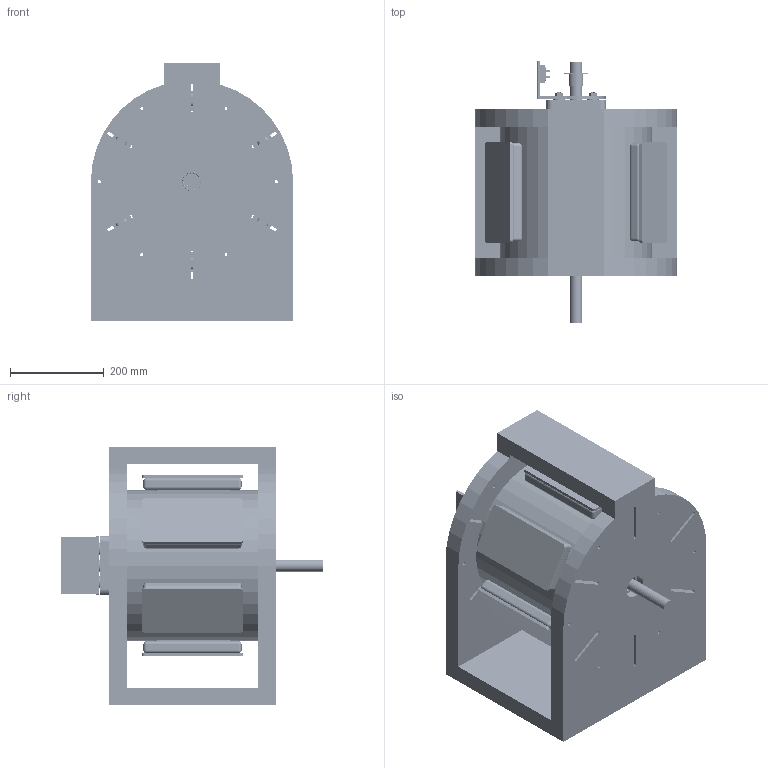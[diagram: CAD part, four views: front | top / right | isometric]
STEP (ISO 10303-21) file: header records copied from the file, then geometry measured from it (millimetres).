
FILE_DESCRIPTION(('HOOPS Exchange Step'),'2;1');
FILE_NAME('C:\Users\edbec\AppData\Local\Packages\Shapr3D.Shapr3D_dvv5p1vgwv6mp\TempState\export\temp_export','2024-05-31T18:08:55+08:00',('edbec'),('Shapr3D Limited'),'HOOPS Exchange 2024.2','Shapr3D','Authorized');
FILE_SCHEMA( ('AUTOMOTIVE_DESIGN { 1 0 10303 214 1 1 1 1 }') );
Length unit declared in the file: millimetre
Products named in the file (25): Bolts Nuts and Washers; Timing Wheel Bracket; Timing Wheel Base Plate; Timing Wheel; Folder 25; Axle; Boca_R16_ZRO2-W_500_FC 01; Boca_R16_ZRO2-W_500_FC 02; Bearings; Clamping Shaft Collar (1); Clamping Shaft Collar (2); Clamping Shaft Collars; Coils; Coil Spools; Flange Mount 01; Flange Mount 02; Flange Mounts; Magnets; Rotors; Spacers; Stator Base; Stator Housing; Stator Top Horizontal; Stator Vertical Supports; root
Assembly tree (24 placements, depth 3):
  root
    Timing Wheel Bracket
      Bolts Nuts and Washers
    Timing Wheel Base Plate
    Timing Wheel
    Axle
      Folder 25
    Bearings
      Boca_R16_ZRO2-W_500_FC 01
      Boca_R16_ZRO2-W_500_FC 02
    Clamping Shaft Collars
      Clamping Shaft Collar (1)
      Clamping Shaft Collar (2)
    Coils
    Coil Spools
    Flange Mounts
      Flange Mount 01
      Flange Mount 02
    Magnets
    Rotors
    Spacers
    Stator Base
    Stator Housing
    Stator Top Horizontal
    Stator Vertical Supports
Bounding box: 431.8 x 560.78 x 552.45 mm (x, y, z)
Volume: 39851236.1 mm3; surface area: 5694191.9 mm2
Topology: 79 solids, 79 shells, 2598 faces, 7116 edges, 4751 vertices
Faces by surface type: cylinder 1111, plane 887, bspline 284, sphere 178, cone 114, torus 24
Full cylindrical faces by diameter (mm): 0.508 x4, 0.787 x1, 1.016 x4, 1.27 x3, 1.397 x2, 3.175 x2, 6.35 x212, 8.93 x2, 9.525 x8, 11.113 x8, 25.4 x23, 31.75 x3, 35.077 x6, 36.805 x2, 38.1 x2, 39.395 x2, 41.123 x6, 50.165 x6, 50.8 x4, 82.042 x2, 295.631 x2, 301.981 x1, 323.85 x1
Entity records: 360395 total; most frequent: CARTESIAN_POINT 297366, ORIENTED_EDGE 14136, DIRECTION 11209, EDGE_CURVE 7068, VERTEX_POINT 4751, AXIS2_PLACEMENT_3D 4018, VECTOR 3173, LINE 3173
